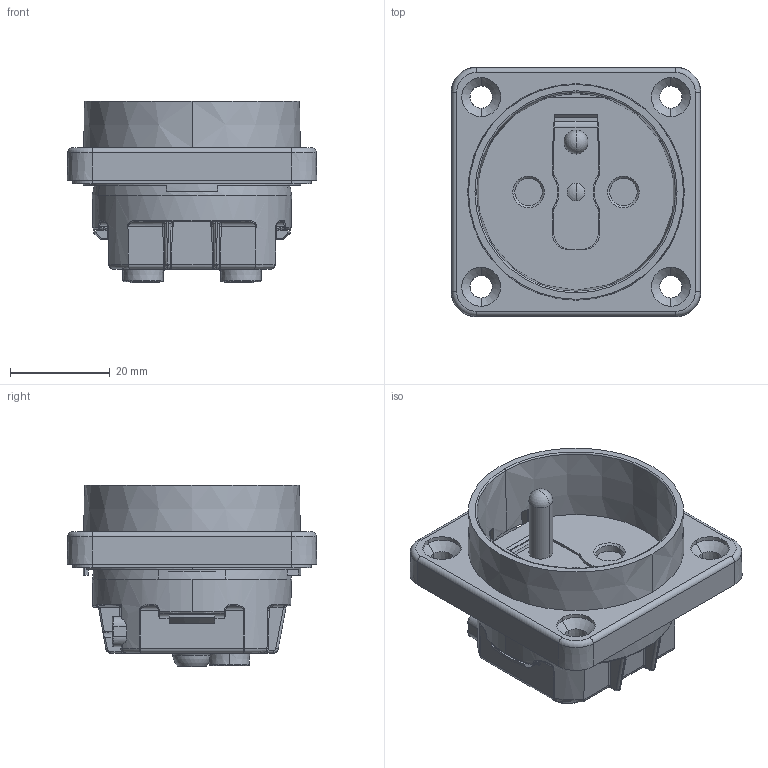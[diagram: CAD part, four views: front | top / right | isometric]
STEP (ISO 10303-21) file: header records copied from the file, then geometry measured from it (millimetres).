
FILE_DESCRIPTION((''),'2;1');
FILE_NAME('11631_SW0002','2026-01-21T14:40:16',('chylka001'),('MENNEKES'),'CREO PARAMETRIC BY PTC INC, 2024153','CREO PARAMETRIC BY PTC INC, 2024153','');
FILE_SCHEMA(('AUTOMOTIVE_DESIGN { 1 0 10303 214 1 1 1 1 }'));
Products named in the file (1): 11631_SW0002
Bounding box: 50 x 50 x 36.3 mm (x, y, z)
Volume: 28975.3 mm3; surface area: 14753.7 mm2
Topology: 1 solids, 1 shells, 1020 faces, 2416 edges, 1414 vertices
Faces by surface type: plane 264, cylinder 253, bspline 184, sphere 124, cone 98, torus 89, extrusion 8
Entity records: 51886 total; most frequent: CARTESIAN_POINT 15339, ORIENTED_EDGE 4824, DIRECTION 4224, PRESENTATION_STYLE_ASSIGNMENT 3441, STYLED_ITEM 2421, CURVE_STYLE 2420, EDGE_CURVE 2412, AXIS2_PLACEMENT_3D 1692
